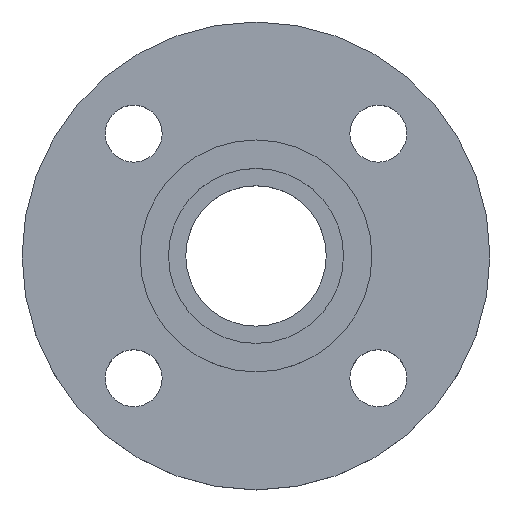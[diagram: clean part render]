
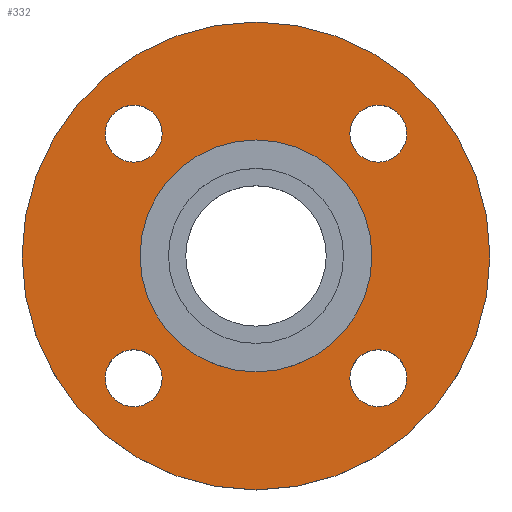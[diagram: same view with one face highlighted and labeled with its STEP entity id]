
A CAD part, top view. The second image highlights one B-rep face of the part: STEP entity #332.
In plain terms, the highlighted planar face has unit normal (0, 0, 1).
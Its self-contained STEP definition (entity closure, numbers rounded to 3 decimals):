
#3 = AXIS2_PLACEMENT_3D ( 'NONE', #303, #304, #305 ) ;
#12 = EDGE_CURVE ( 'NONE', #519, #463, #320, .T. ) ;
#20 = CIRCLE ( 'NONE', #159, 7. ) ;
#22 = AXIS2_PLACEMENT_3D ( 'NONE', #162, #113, #158 ) ;
#32 = CIRCLE ( 'NONE', #3, 57.5 ) ;
#37 = AXIS2_PLACEMENT_3D ( 'NONE', #546, #547, #548 ) ;
#41 = AXIS2_PLACEMENT_3D ( 'NONE', #631, #632, #633 ) ;
#45 = ORIENTED_EDGE ( 'NONE', *, *, #167, .T. ) ;
#46 = EDGE_CURVE ( 'NONE', #497, #367, #263, .T. ) ;
#51 = EDGE_CURVE ( 'NONE', #445, #515, #67, .T. ) ;
#67 = CIRCLE ( 'NONE', #204, 57.5 ) ;
#75 = EDGE_CURVE ( 'NONE', #523, #370, #302, .T. ) ;
#101 = CARTESIAN_POINT ( 'NONE',  ( -23.052, -30.052, -4.5 ) ) ;
#103 = CARTESIAN_POINT ( 'NONE',  ( 37.052, -30.052, -4.5 ) ) ;
#104 = CIRCLE ( 'NONE', #106, 28.5 ) ;
#106 = AXIS2_PLACEMENT_3D ( 'NONE', #616, #629, #630 ) ;
#108 = CIRCLE ( 'NONE', #41, 7. ) ;
#112 = FACE_BOUND ( 'NONE', #356, .T. ) ;
#113 = DIRECTION ( 'NONE',  ( 0., 0., -1. ) ) ;
#117 = FACE_BOUND ( 'NONE', #354, .T. ) ;
#119 = AXIS2_PLACEMENT_3D ( 'NONE', #594, #595, #596 ) ;
#120 = CIRCLE ( 'NONE', #122, 7. ) ;
#121 = FACE_BOUND ( 'NONE', #371, .T. ) ;
#122 = AXIS2_PLACEMENT_3D ( 'NONE', #669, #670, #265 ) ;
#123 = FACE_BOUND ( 'NONE', #351, .T. ) ;
#126 = AXIS2_PLACEMENT_3D ( 'NONE', #143, #146, #153 ) ;
#131 = FACE_BOUND ( 'NONE', #363, .T. ) ;
#135 = FACE_OUTER_BOUND ( 'NONE', #516, .T. ) ;
#140 = PLANE ( 'NONE',  #126 ) ;
#143 = CARTESIAN_POINT ( 'NONE',  ( 28.5, 0., -4.5 ) ) ;
#146 = DIRECTION ( 'NONE',  ( 0., 0., 1. ) ) ;
#153 = DIRECTION ( 'NONE',  ( 1., 0., 0. ) ) ;
#158 = DIRECTION ( 'NONE',  ( 1., 0., 0. ) ) ;
#159 = AXIS2_PLACEMENT_3D ( 'NONE', #165, #171, #326 ) ;
#161 = AXIS2_PLACEMENT_3D ( 'NONE', #529, #530, #531 ) ;
#162 = CARTESIAN_POINT ( 'NONE',  ( 30.052, -30.052, -4.5 ) ) ;
#165 = CARTESIAN_POINT ( 'NONE',  ( 30.052, 30.052, -4.5 ) ) ;
#167 = EDGE_CURVE ( 'NONE', #504, #499, #198, .T. ) ;
#168 = CARTESIAN_POINT ( 'NONE',  ( -23.052, 30.052, -4.5 ) ) ;
#171 = DIRECTION ( 'NONE',  ( 0., 0., -1. ) ) ;
#176 = CARTESIAN_POINT ( 'NONE',  ( -57.5, 0., -4.5 ) ) ;
#178 = CARTESIAN_POINT ( 'NONE',  ( 28.5, 0., -4.5 ) ) ;
#184 = CARTESIAN_POINT ( 'NONE',  ( 23.052, -30.052, -4.5 ) ) ;
#198 = CIRCLE ( 'NONE', #119, 7. ) ;
#203 = EDGE_CURVE ( 'NONE', #463, #519, #104, .T. ) ;
#204 = AXIS2_PLACEMENT_3D ( 'NONE', #549, #550, #551 ) ;
#221 = EDGE_CURVE ( 'NONE', #370, #523, #108, .T. ) ;
#233 = CARTESIAN_POINT ( 'NONE',  ( 23.052, 30.052, -4.5 ) ) ;
#254 = CARTESIAN_POINT ( 'NONE',  ( -37.052, -30.052, -4.5 ) ) ;
#258 = CARTESIAN_POINT ( 'NONE',  ( -37.052, 30.052, -4.5 ) ) ;
#263 = CIRCLE ( 'NONE', #37, 7. ) ;
#265 = DIRECTION ( 'NONE',  ( 1., 0., 0. ) ) ;
#277 = AXIS2_PLACEMENT_3D ( 'NONE', #564, #565, #566 ) ;
#282 = CARTESIAN_POINT ( 'NONE',  ( -30.052, -30.052, -4.5 ) ) ;
#283 = DIRECTION ( 'NONE',  ( 0., 0., -1. ) ) ;
#284 = DIRECTION ( 'NONE',  ( 1., 0., 0. ) ) ;
#301 = CARTESIAN_POINT ( 'NONE',  ( 57.5, 0., -4.5 ) ) ;
#302 = CIRCLE ( 'NONE', #277, 7. ) ;
#303 = CARTESIAN_POINT ( 'NONE',  ( 0., 0., -4.5 ) ) ;
#304 = DIRECTION ( 'NONE',  ( 0., 0., -1. ) ) ;
#305 = DIRECTION ( 'NONE',  ( -1., 0., 0. ) ) ;
#317 = CARTESIAN_POINT ( 'NONE',  ( -28.5, 0., -4.5 ) ) ;
#318 = CIRCLE ( 'NONE', #328, 7. ) ;
#320 = CIRCLE ( 'NONE', #161, 28.5 ) ;
#322 = CARTESIAN_POINT ( 'NONE',  ( 37.052, 30.052, -4.5 ) ) ;
#326 = DIRECTION ( 'NONE',  ( 1., 0., 0. ) ) ;
#328 = AXIS2_PLACEMENT_3D ( 'NONE', #282, #283, #284 ) ;
#329 = EDGE_CURVE ( 'NONE', #355, #466, #120, .T. ) ;
#332 = ADVANCED_FACE ( 'NONE', ( #112, #117, #121, #123, #131, #135 ), #140, .T. ) ;
#346 = CIRCLE ( 'NONE', #22, 7. ) ;
#351 = EDGE_LOOP ( 'NONE', ( #430, #431 ) ) ;
#354 = EDGE_LOOP ( 'NONE', ( #425, #426 ) ) ;
#355 = VERTEX_POINT ( 'NONE', #233 ) ;
#356 = EDGE_LOOP ( 'NONE', ( #424, #45 ) ) ;
#363 = EDGE_LOOP ( 'NONE', ( #432, #433 ) ) ;
#367 = VERTEX_POINT ( 'NONE', #254 ) ;
#370 = VERTEX_POINT ( 'NONE', #258 ) ;
#371 = EDGE_LOOP ( 'NONE', ( #427, #429 ) ) ;
#424 = ORIENTED_EDGE ( 'NONE', *, *, #611, .T. ) ;
#425 = ORIENTED_EDGE ( 'NONE', *, *, #46, .T. ) ;
#426 = ORIENTED_EDGE ( 'NONE', *, *, #428, .T. ) ;
#427 = ORIENTED_EDGE ( 'NONE', *, *, #75, .T. ) ;
#428 = EDGE_CURVE ( 'NONE', #367, #497, #318, .T. ) ;
#429 = ORIENTED_EDGE ( 'NONE', *, *, #221, .T. ) ;
#430 = ORIENTED_EDGE ( 'NONE', *, *, #599, .T. ) ;
#431 = ORIENTED_EDGE ( 'NONE', *, *, #329, .T. ) ;
#432 = ORIENTED_EDGE ( 'NONE', *, *, #203, .T. ) ;
#433 = ORIENTED_EDGE ( 'NONE', *, *, #12, .T. ) ;
#435 = ORIENTED_EDGE ( 'NONE', *, *, #51, .F. ) ;
#437 = ORIENTED_EDGE ( 'NONE', *, *, #449, .F. ) ;
#445 = VERTEX_POINT ( 'NONE', #301 ) ;
#449 = EDGE_CURVE ( 'NONE', #515, #445, #32, .T. ) ;
#463 = VERTEX_POINT ( 'NONE', #317 ) ;
#466 = VERTEX_POINT ( 'NONE', #322 ) ;
#497 = VERTEX_POINT ( 'NONE', #101 ) ;
#499 = VERTEX_POINT ( 'NONE', #103 ) ;
#504 = VERTEX_POINT ( 'NONE', #184 ) ;
#515 = VERTEX_POINT ( 'NONE', #176 ) ;
#516 = EDGE_LOOP ( 'NONE', ( #435, #437 ) ) ;
#519 = VERTEX_POINT ( 'NONE', #178 ) ;
#523 = VERTEX_POINT ( 'NONE', #168 ) ;
#529 = CARTESIAN_POINT ( 'NONE',  ( 0., 0., -4.5 ) ) ;
#530 = DIRECTION ( 'NONE',  ( 0., 0., -1. ) ) ;
#531 = DIRECTION ( 'NONE',  ( -1., 0., 0. ) ) ;
#546 = CARTESIAN_POINT ( 'NONE',  ( -30.052, -30.052, -4.5 ) ) ;
#547 = DIRECTION ( 'NONE',  ( 0., 0., -1. ) ) ;
#548 = DIRECTION ( 'NONE',  ( 1., 0., 0. ) ) ;
#549 = CARTESIAN_POINT ( 'NONE',  ( 0., 0., -4.5 ) ) ;
#550 = DIRECTION ( 'NONE',  ( 0., 0., -1. ) ) ;
#551 = DIRECTION ( 'NONE',  ( -1., 0., 0. ) ) ;
#564 = CARTESIAN_POINT ( 'NONE',  ( -30.052, 30.052, -4.5 ) ) ;
#565 = DIRECTION ( 'NONE',  ( 0., 0., -1. ) ) ;
#566 = DIRECTION ( 'NONE',  ( 1., 0., 0. ) ) ;
#594 = CARTESIAN_POINT ( 'NONE',  ( 30.052, -30.052, -4.5 ) ) ;
#595 = DIRECTION ( 'NONE',  ( 0., 0., -1. ) ) ;
#596 = DIRECTION ( 'NONE',  ( 1., 0., 0. ) ) ;
#599 = EDGE_CURVE ( 'NONE', #466, #355, #20, .T. ) ;
#611 = EDGE_CURVE ( 'NONE', #499, #504, #346, .T. ) ;
#616 = CARTESIAN_POINT ( 'NONE',  ( 0., 0., -4.5 ) ) ;
#629 = DIRECTION ( 'NONE',  ( 0., 0., -1. ) ) ;
#630 = DIRECTION ( 'NONE',  ( -1., 0., 0. ) ) ;
#631 = CARTESIAN_POINT ( 'NONE',  ( -30.052, 30.052, -4.5 ) ) ;
#632 = DIRECTION ( 'NONE',  ( 0., 0., -1. ) ) ;
#633 = DIRECTION ( 'NONE',  ( 1., 0., 0. ) ) ;
#669 = CARTESIAN_POINT ( 'NONE',  ( 30.052, 30.052, -4.5 ) ) ;
#670 = DIRECTION ( 'NONE',  ( 0., 0., -1. ) ) ;
